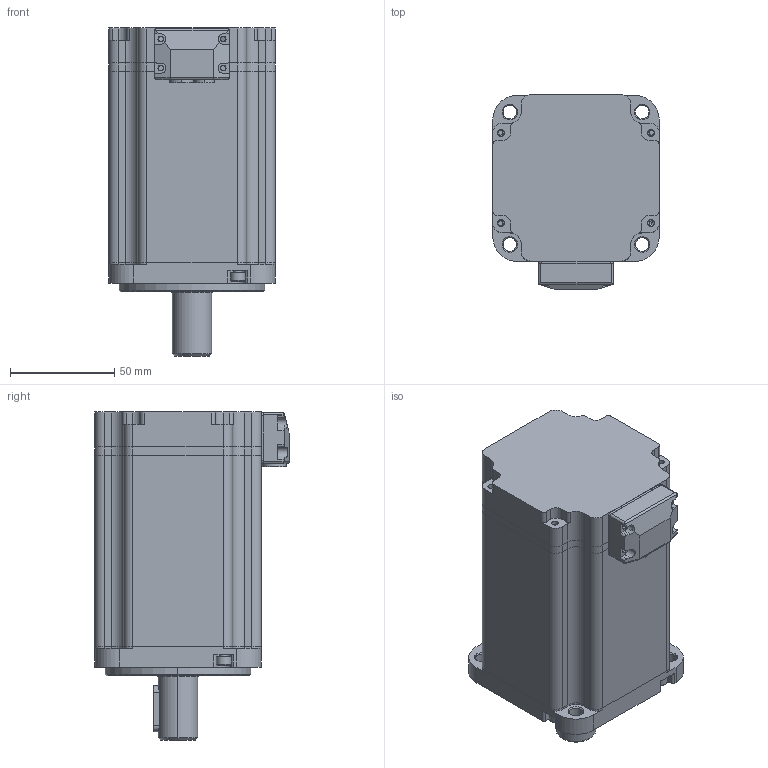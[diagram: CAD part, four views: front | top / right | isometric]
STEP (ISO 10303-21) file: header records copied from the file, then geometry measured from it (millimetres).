
FILE_DESCRIPTION (( 'STEP AP203' ), '1' );
FILE_NAME ('9.5914.STEP', '2020-08-03T08:06:44', ( 'K' ), ( 'K' ), 'SwSTEP 2.0', 'SolidWorks 2018', '' );
FILE_SCHEMA (( 'CONFIG_CONTROL_DESIGN' ));
Length unit declared in the file: millimetre
Products named in the file (1): 9.5914
Bounding box: 80 x 93.5 x 157.7 mm (x, y, z)
Volume: 260159.2 mm3; surface area: 139927.8 mm2
Topology: 22 solids, 22 shells, 1128 faces, 2862 edges, 1821 vertices
Faces by surface type: cylinder 519, plane 436, cone 101, torus 66, bspline 6
Entity records: 34751 total; most frequent: CARTESIAN_POINT 6526, DIRECTION 6292, ORIENTED_EDGE 5652, EDGE_CURVE 2826, AXIS2_PLACEMENT_3D 2425, VERTEX_POINT 1821, VECTOR 1442, LINE 1442
